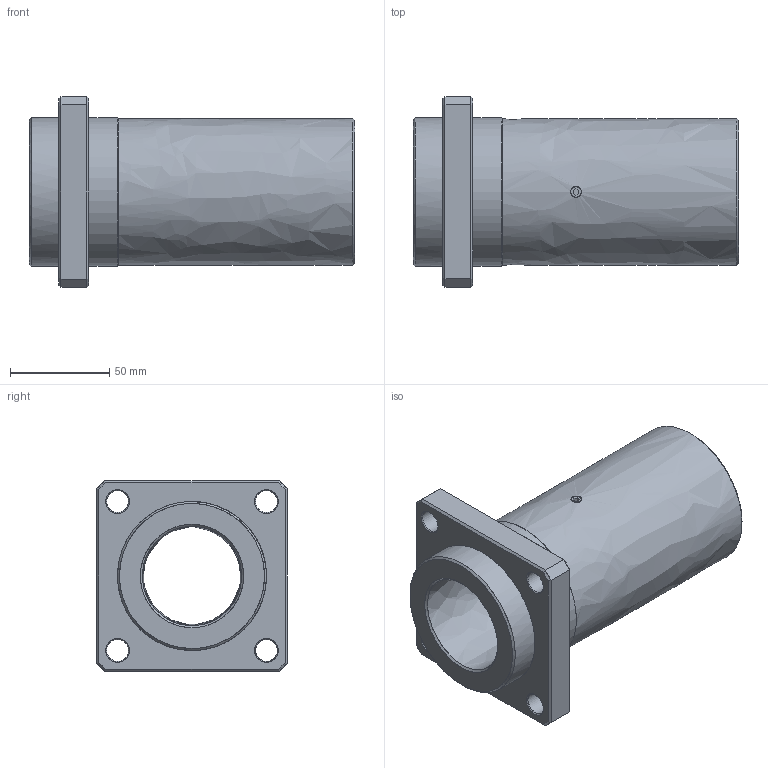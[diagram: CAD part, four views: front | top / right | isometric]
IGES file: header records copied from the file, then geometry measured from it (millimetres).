
Start section: Missler Software 3 rue Hermes, EUROPARC, 31520 Ramonville-Saint-Agne, France Tel   : +33 (0)5 61 00 03 00 Fax   : +33 (0)5 61 00 03 03 Email : sup.solid@topsolid.com
Global section: file name: \\192.168.1.1\share\s-4 技術開発\s-4-4_CAD\s-4-4-3_見直し済み\009 修正済み\LCF-B(済)\LCF-B_TOP\LCF-50BUU.igs; native system: TopSolid v611216 Missler Software; preprocessor: IGES preprocessor v100000; author: yu; organization: コダマコーポレーション株式会社, 10,7,13H22020; date: 220203.165230; units: millimetre
Bounding box: 164 x 96 x 96 mm (x, y, z)
Surface area: 81232.5 mm2 (no closed solid volume)
Topology: 0 solids, 0 shells, 62 faces, 685 edges, 674 vertices
Faces by surface type: bspline 62
